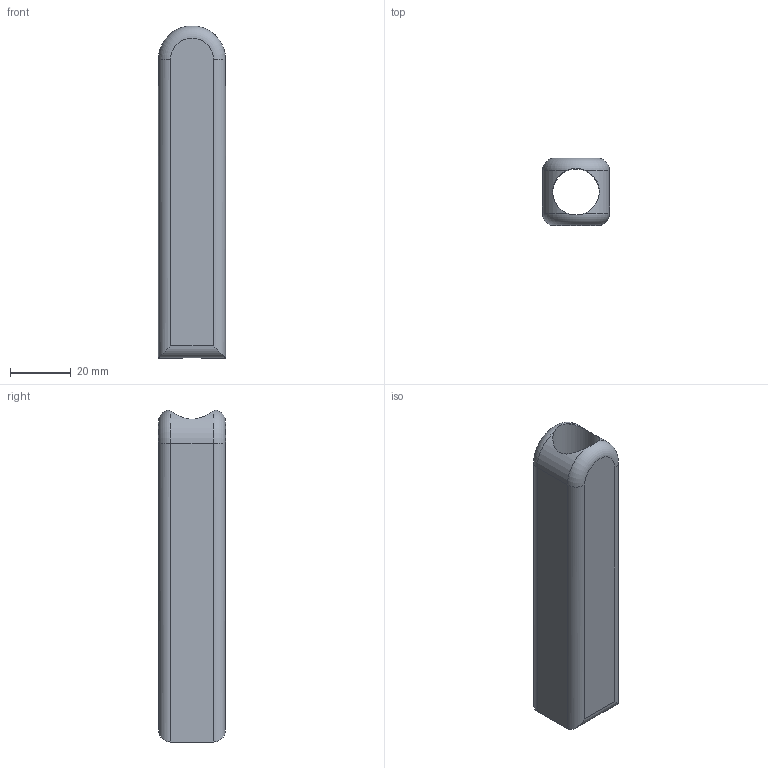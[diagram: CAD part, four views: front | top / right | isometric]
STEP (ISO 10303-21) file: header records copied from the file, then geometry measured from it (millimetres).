
FILE_DESCRIPTION(/* description */ (''),/* implementation_level */ '2;1');
FILE_NAME(/* name */ 'C:/Users/Owner/Desktop/K-CAD Songbird PM4 Centerfire/STEP/Barrels/Barrel Type 1/Barrel Type 1 .6 inch ID.step',/* time_stamp */ '2020-12-05T21:51:43-05:00',/* author */ (''),/* organization */ (''),/* preprocessor_version */ 'ST-DEVELOPER v18.1',/* originating_system */ 'Autodesk Translation Framework v9.3.0.1241',/* authorisation */ '');
FILE_SCHEMA (('AUTOMOTIVE_DESIGN { 1 0 10303 214 3 1 1 }'));
Length unit declared in the file: inch
Products named in the file (1): Barrel Type 1 .6 inch ID
Bounding box: 22 x 22 x 108.95 mm (x, y, z)
Volume: 30169.5 mm3; surface area: 14134.2 mm2
Topology: 1 solids, 1 shells, 17 faces, 43 edges, 26 vertices
Faces by surface type: cylinder 9, plane 6, torus 2
Full cylindrical faces by diameter (mm): 15.24 x1
Entity records: 613 total; most frequent: CARTESIAN_POINT 158, DIRECTION 89, ORIENTED_EDGE 86, EDGE_CURVE 43, AXIS2_PLACEMENT_3D 35, VERTEX_POINT 26, LINE 19, VECTOR 19
